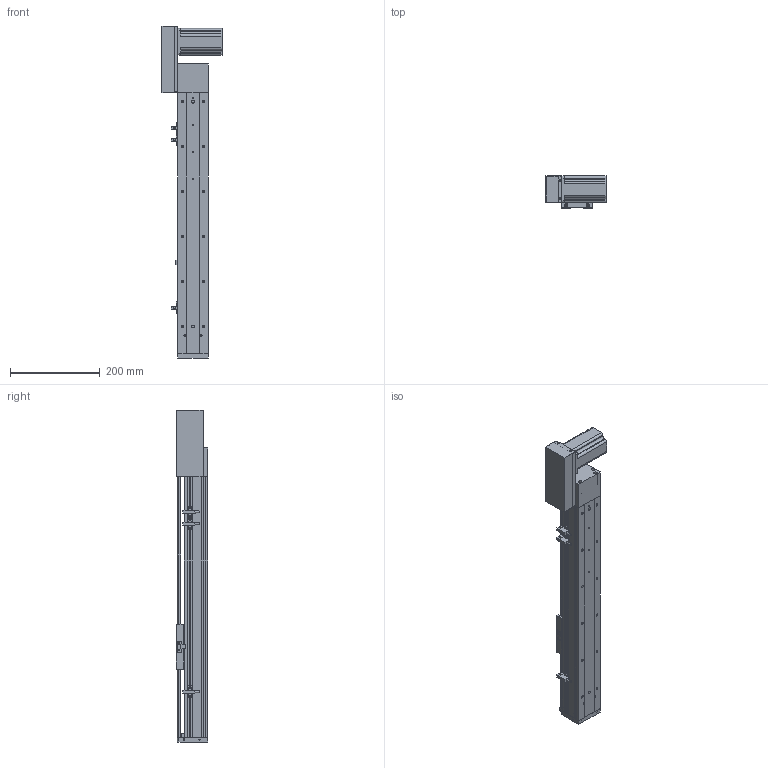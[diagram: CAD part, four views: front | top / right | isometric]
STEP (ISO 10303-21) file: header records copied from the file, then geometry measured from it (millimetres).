
FILE_DESCRIPTION (( 'STEP AP203' ), '1' );
FILE_NAME ('ML68-S400-CR.STEP', '2016-08-04T12:42:05', ( '' ), ( '' ), 'SwSTEP 2.0', 'SolidWorks 2014', '' );
FILE_SCHEMA (( 'CONFIG_CONTROL_DESIGN' ));
Length unit declared in the file: millimetre
Products named in the file (12): ML68奻裔^ML68-S350-CR; ML68傷啣; 60換覜結え; 換覜ん; 三协电机MH201N2_預設; ML68-S400-CR; QS68酘衵殏萇儂啣; ML68滅鳥啣盓傅輸; ML68雄赽釱; ML68-BL傷啣; 葩璃 ML68菁釱^ML68-S350-CR; QS68左右折电机板罩子
Assembly tree (13 placements, depth 2):
  ML68-S400-CR
    葩璃 ML68菁釱^ML68-S350-CR
    ML68奻裔^ML68-S350-CR
    ML68傷啣
    ML68-BL傷啣
    60換覜結え
    換覜ん  x3
    三协电机MH201N2_預設
    ML68雄赽釱
    QS68酘衵殏萇儂啣
    QS68左右折电机板罩子
    ML68滅鳥啣盓傅輸
Bounding box: 133.5 x 70.5 x 738.5 mm (x, y, z)
Volume: 1431259.8 mm3; surface area: 508378.2 mm2
Topology: 13 solids, 13 shells, 887 faces, 2426 edges, 1537 vertices
Faces by surface type: cylinder 402, plane 389, cone 96
Entity records: 27982 total; most frequent: CARTESIAN_POINT 5278, DIRECTION 4592, ORIENTED_EDGE 4352, EDGE_CURVE 2176, AXIS2_PLACEMENT_3D 1655, VERTEX_POINT 1425, LINE 1282, VECTOR 1282
